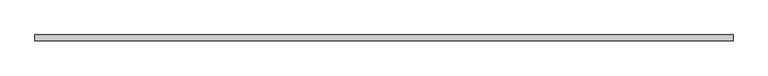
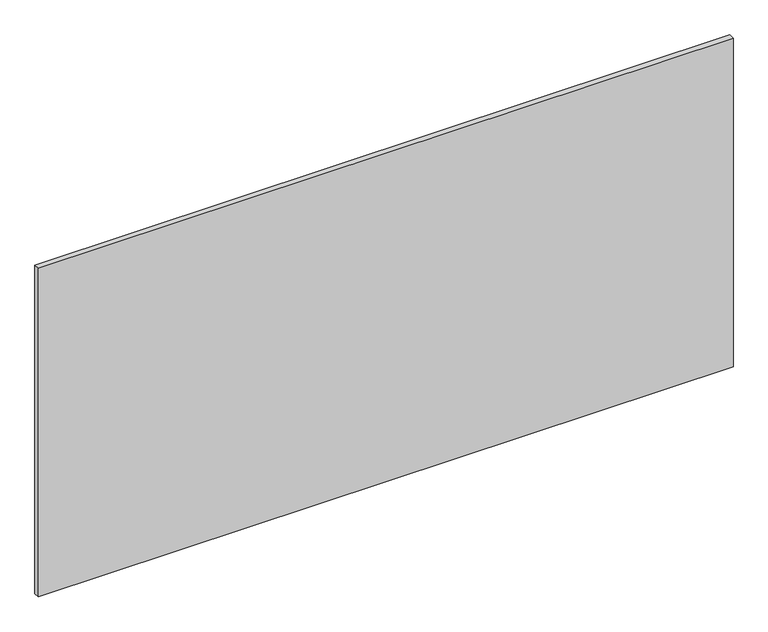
"""IFC4 building model written with IfcOpenShell, lengths in millimetres: plate geometry, Системная панель : С остеклением."""

from ifc_helpers import new_model, si_unit, origin, origin_with_axes, place, context, project, spatial, polyline, outline, extrude, source, transform, mapped, element, save


def plate_1cdad03e(model_context):
    return source(origin(), model_context, "Body", "SweptSolid", [
        extrude(outline(polyline([(1500.0, 24.5), (-1500.0, 24.5), (-1500.0, 49.5), (1500.0, 49.5), (1500.0, 24.5)])), origin_with_axes(), (0.0, 0.0, 1.0), 1500.0),
    ])


if __name__ == "__main__":
    model = new_model("IFC4")
    model_context = context("Model", 3, world=origin())
    ifc_project = project(units=[si_unit("LENGTHUNIT", "METRE", prefix="MILLI")], contexts=[model_context])
    site = spatial("IfcSite", under=ifc_project)
    building = spatial("IfcBuilding", under=site)
    placement = place(None, origin())
    plate_shape = plate_1cdad03e(model_context)
    element("IfcPlate", 1, ObjectType="Системная панель : С остеклением", at=placement, inside=building, context=model_context, shape_type="MappedRepresentation", body=[
        mapped(plate_shape, transform((0.0, 0.0, 0.0), x_axis=(1.0, 0.0, 0.0), y_axis=(0.0, 1.0, 0.0), z_axis=(0.0, 0.0, 1.0))),
    ])
    save(model, "model.ifc")
